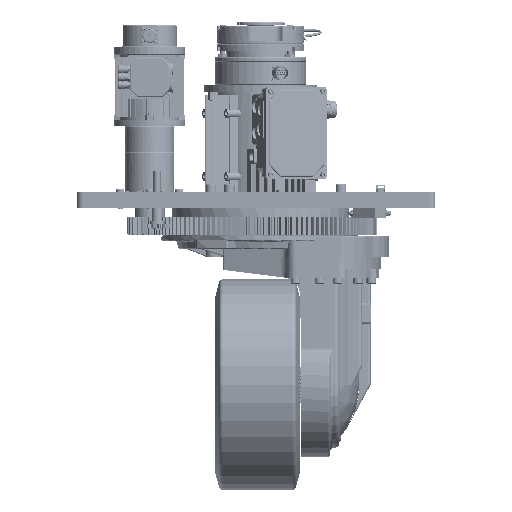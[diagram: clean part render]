
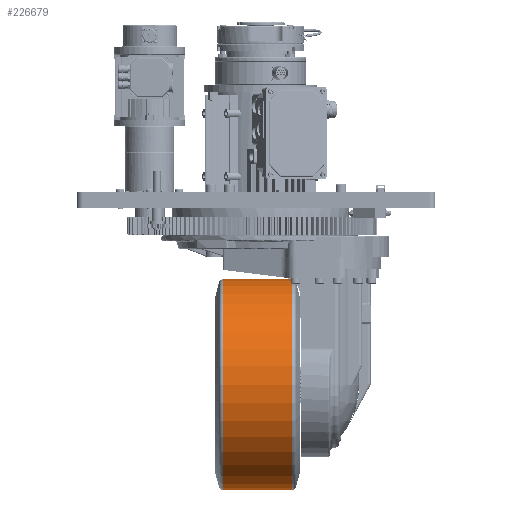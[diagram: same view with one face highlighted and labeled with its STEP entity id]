
A CAD part, front view. The second image highlights one B-rep face of the part: STEP entity #226679.
In plain terms, the highlighted cylindrical face has radius 175 mm (diameter 350 mm), a full revolution.
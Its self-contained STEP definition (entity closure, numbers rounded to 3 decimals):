
#25823=FACE_OUTER_BOUND('',#39245,.T.);
#39245=EDGE_LOOP('',(#198599,#198600,#198601,#198602));
#56639=LINE('',#400718,#74220);
#74220=VECTOR('',#308374,175.);
#84915=CIRCLE('',#248324,175.);
#84916=CIRCLE('',#248326,175.);
#105359=VERTEX_POINT('',#400713);
#105360=VERTEX_POINT('',#400717);
#136563=EDGE_CURVE('',#105359,#105359,#84915,.T.);
#136564=EDGE_CURVE('',#105359,#105360,#56639,.T.);
#136565=EDGE_CURVE('',#105360,#105360,#84916,.T.);
#198599=ORIENTED_EDGE('',*,*,#136563,.F.);
#198600=ORIENTED_EDGE('',*,*,#136564,.T.);
#198601=ORIENTED_EDGE('',*,*,#136565,.T.);
#198602=ORIENTED_EDGE('',*,*,#136564,.F.);
#203476=CYLINDRICAL_SURFACE('',#248325,175.);
#226679=ADVANCED_FACE('',(#25823),#203476,.T.);
#248324=AXIS2_PLACEMENT_3D('',#400715,#308370,#308371);
#248325=AXIS2_PLACEMENT_3D('',#400716,#308372,#308373);
#248326=AXIS2_PLACEMENT_3D('',#400719,#308375,#308376);
#308370=DIRECTION('center_axis',(1.,0.,0.));
#308371=DIRECTION('ref_axis',(0.,0.,
-1.));
#308372=DIRECTION('center_axis',(1.,0.,0.));
#308373=DIRECTION('ref_axis',(0.,0.,
-1.));
#308374=DIRECTION('',(-1.,0.,0.));
#308375=DIRECTION('center_axis',(1.,0.,0.));
#308376=DIRECTION('ref_axis',(0.,0.,
-1.));
#400713=CARTESIAN_POINT('',(40.477,0.,-78.));
#400715=CARTESIAN_POINT('Origin',(40.477,0.,
-253.));
#400716=CARTESIAN_POINT('Origin',(-17.55,0.,-253.));
#400717=CARTESIAN_POINT('',(-75.577,0.,-78.));
#400718=CARTESIAN_POINT('',(-17.55,0.,-78.));
#400719=CARTESIAN_POINT('Origin',(-75.577,0.,
-253.));
